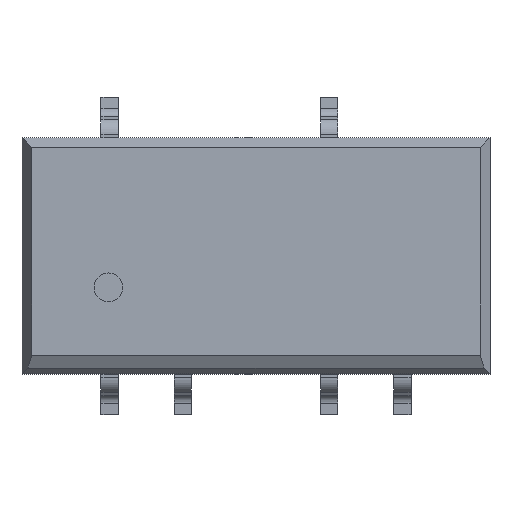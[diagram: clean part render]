
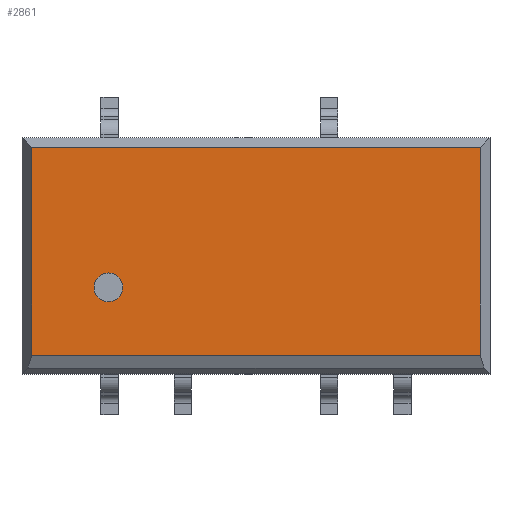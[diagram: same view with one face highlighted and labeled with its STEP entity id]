
A CAD part, top view. The second image highlights one B-rep face of the part: STEP entity #2861.
In plain terms, the highlighted planar face has unit normal (0, 0, 1).
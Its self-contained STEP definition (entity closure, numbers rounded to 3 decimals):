
#44=FACE_BOUND('',#436,.T.);
#99=CIRCLE('',#3073,0.5);
#261=FACE_OUTER_BOUND('',#435,.T.);
#435=EDGE_LOOP('',(#2495,#2496,#2497,#2498));
#436=EDGE_LOOP('',(#2499));
#754=LINE('',#4576,#1097);
#758=LINE('',#4585,#1101);
#761=LINE('',#4591,#1104);
#762=LINE('',#4592,#1105);
#1097=VECTOR('',#3759,15.547);
#1101=VECTOR('',#3767,7.207);
#1104=VECTOR('',#3772,7.207);
#1105=VECTOR('',#3773,15.547);
#1375=VERTEX_POINT('',#4569);
#1378=VERTEX_POINT('',#4574);
#1381=VERTEX_POINT('',#4584);
#1383=VERTEX_POINT('',#4590);
#1384=VERTEX_POINT('',#4593);
#1752=EDGE_CURVE('',#1378,#1375,#754,.T.);
#1756=EDGE_CURVE('',#1375,#1381,#758,.T.);
#1759=EDGE_CURVE('',#1383,#1378,#761,.T.);
#1760=EDGE_CURVE('',#1381,#1383,#762,.T.);
#1761=EDGE_CURVE('',#1384,#1384,#99,.T.);
#2495=ORIENTED_EDGE('',*,*,#1752,.F.);
#2496=ORIENTED_EDGE('',*,*,#1759,.F.);
#2497=ORIENTED_EDGE('',*,*,#1760,.F.);
#2498=ORIENTED_EDGE('',*,*,#1756,.F.);
#2499=ORIENTED_EDGE('',*,*,#1761,.T.);
#2705=PLANE('',#3072);
#2861=ADVANCED_FACE('',(#261,#44),#2705,.T.);
#3072=AXIS2_PLACEMENT_3D('',#4589,#3770,#3771);
#3073=AXIS2_PLACEMENT_3D('',#4594,#3774,#3775);
#3759=DIRECTION('',(-1.,0.,0.));
#3767=DIRECTION('',(0.,1.,0.));
#3770=DIRECTION('center_axis',(0.,0.,1.));
#3771=DIRECTION('ref_axis',(1.,0.,0.));
#3772=DIRECTION('',(0.,-1.,0.));
#3773=DIRECTION('',(1.,0.,0.));
#3774=DIRECTION('center_axis',(0.,0.,-1.));
#3775=DIRECTION('ref_axis',(-1.,0.,0.));
#4569=CARTESIAN_POINT('',(-7.774,-3.454,5.3));
#4574=CARTESIAN_POINT('',(7.774,-3.454,5.3));
#4576=CARTESIAN_POINT('',(2.03,-3.454,5.3));
#4584=CARTESIAN_POINT('',(-7.774,3.754,5.3));
#4585=CARTESIAN_POINT('',(-7.774,-2.05,5.3));
#4589=CARTESIAN_POINT('Origin',(0.,0.,5.3));
#4590=CARTESIAN_POINT('',(7.774,3.754,5.3));
#4591=CARTESIAN_POINT('',(7.774,2.05,5.3));
#4592=CARTESIAN_POINT('',(-4.06,3.754,5.3));
#4593=CARTESIAN_POINT('',(-4.62,-1.1,5.3));
#4594=CARTESIAN_POINT('Origin',(-5.12,-1.1,5.3));
